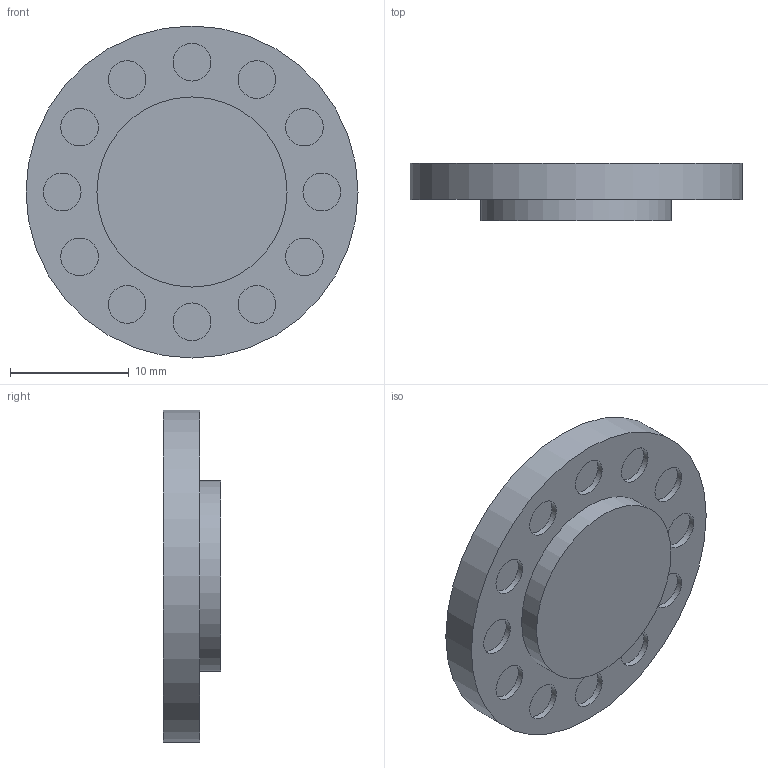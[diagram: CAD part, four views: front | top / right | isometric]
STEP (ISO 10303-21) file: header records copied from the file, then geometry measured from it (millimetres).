
FILE_DESCRIPTION (( 'STEP AP203' ), '1' );
FILE_NAME ('Speaker 8 Ohm.step', '2015-03-14T23:36:31', ( '' ), ( '' ), 'SwSTEP 2.0', 'SolidWorks 2013', '' );
FILE_SCHEMA (( 'CONFIG_CONTROL_DESIGN' ));
Length unit declared in the file: inch
Products named in the file (1): Speaker 8 Ohm
Bounding box: 27.94 x 4.83 x 27.94 mm (x, y, z)
Volume: 2178.1 mm3; surface area: 1644 mm2
Topology: 1 solids, 1 shells, 29 faces, 43 edges, 29 vertices
Faces by surface type: plane 15, cylinder 14
Full cylindrical faces by diameter (mm): 3.175 x12, 16.002 x1, 27.94 x1
Entity records: 653 total; most frequent: DIRECTION 116, CARTESIAN_POINT 86, AXIS2_PLACEMENT_3D 58, EDGE_LOOP 56, ORIENTED_EDGE 56, FACE_OUTER_BOUND 43, ADVANCED_FACE 29, VERTEX_POINT 28
